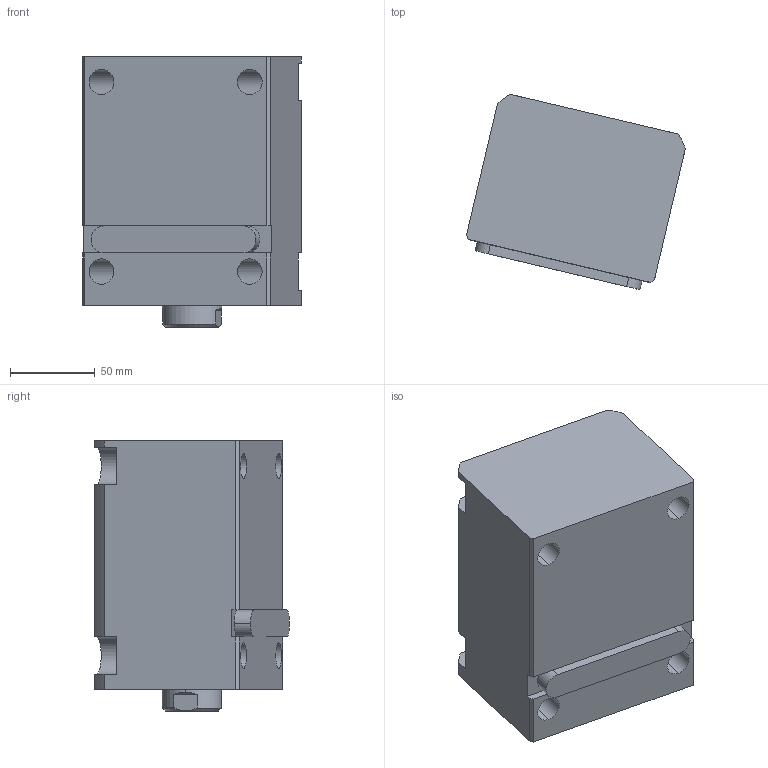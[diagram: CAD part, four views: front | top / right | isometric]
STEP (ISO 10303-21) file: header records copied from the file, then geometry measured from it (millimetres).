
FILE_DESCRIPTION (( 'STEP AP214' ), '1' );
FILE_NAME ('chtb-la63x80n_asm.STEP', '2018-05-02T03:49:02', ( 'Windows' ), ( 'Microsoft' ), 'SwSTEP 2.0', 'SolidWorks 2015', '' );
FILE_SCHEMA (( 'AUTOMOTIVE_DESIGN' ));
Length unit declared in the file: millimetre
Products named in the file (5): CHTB-LA63PJ; CHTB63X80NHSG; CHTB-63QG; chtb-la63x80n_asm; CHTB-LA63X80NBT
Assembly tree (4 placements, depth 2):
  chtb-la63x80n_asm
    CHTB-63QG
    CHTB63X80NHSG
    CHTB-LA63PJ
    CHTB-LA63X80NBT
Bounding box: 129.23 x 115.24 x 160 mm (x, y, z)
Volume: 1240235 mm3; surface area: 173308.4 mm2
Topology: 4 solids, 4 shells, 174 faces, 510 edges, 348 vertices
Faces by surface type: cylinder 98, plane 45, bspline 12, cone 12, torus 7
Entity records: 18199 total; most frequent: CARTESIAN_POINT 13678, ORIENTED_EDGE 1008, DIRECTION 778, EDGE_CURVE 504, VERTEX_POINT 348, AXIS2_PLACEMENT_3D 295, EDGE_LOOP 198, VECTOR 188
